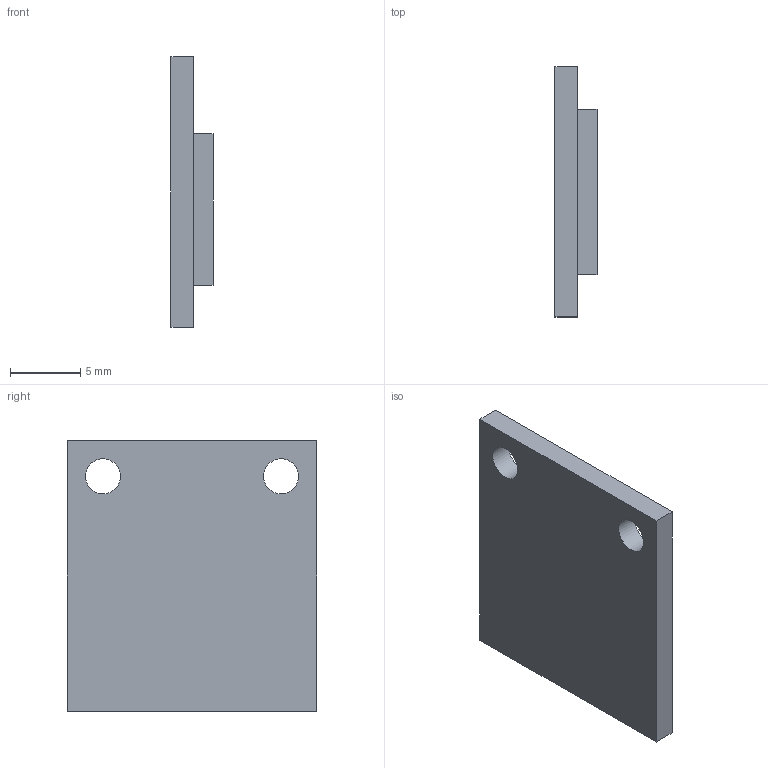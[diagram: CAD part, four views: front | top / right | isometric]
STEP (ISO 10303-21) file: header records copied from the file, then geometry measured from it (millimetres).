
FILE_DESCRIPTION(('Open CASCADE Model'),'2;1');
FILE_NAME('Open CASCADE Shape Model','2026-11-23T18:10:06',('Author'),( 'Open CASCADE'),'Open CASCADE STEP processor 8.0','build123d', 'Unknown');
FILE_SCHEMA(('AUTOMOTIVE_DESIGN { 1 0 10303 214 1 1 1 1 }'));
Length unit declared in the file: millimetre
Products named in the file (1): SOLID
Bounding box: 3 x 17.8 x 19.3 mm (x, y, z)
Volume: 712.4 mm3; surface area: 874.6 mm2
Topology: 1 solids, 1 shells, 13 faces, 30 edges, 20 vertices
Faces by surface type: plane 11, cylinder 2
Full cylindrical faces by diameter (mm): 2.5 x2
Entity records: 768 total; most frequent: CARTESIAN_POINT 132, DIRECTION 114, LINE 74, VECTOR 74, ORIENTED_EDGE 60, PCURVE 60, DEFINITIONAL_REPRESENTATION 60, EDGE_CURVE 30
